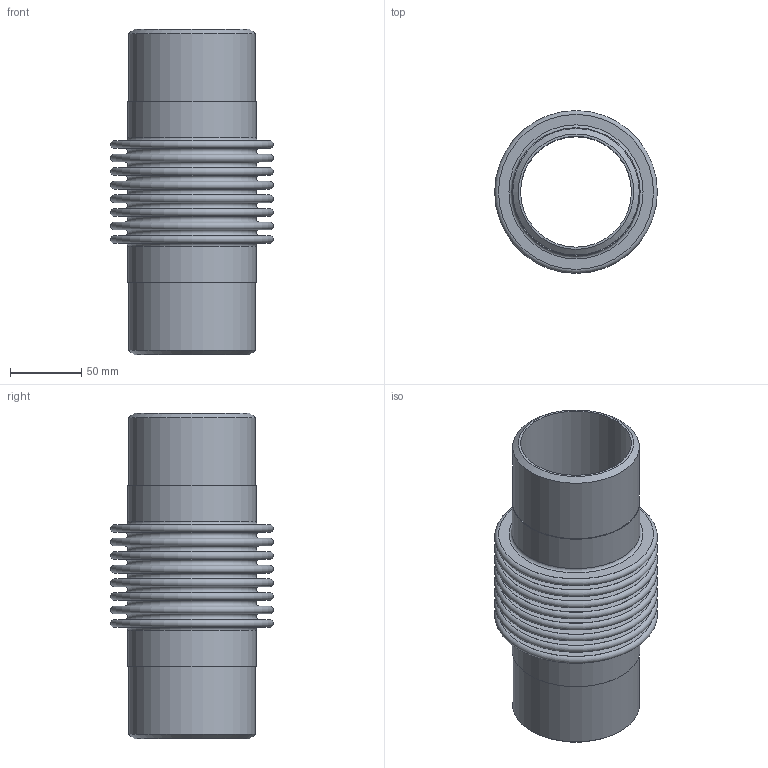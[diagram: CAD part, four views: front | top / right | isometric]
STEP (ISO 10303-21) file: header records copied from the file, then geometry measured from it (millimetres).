
FILE_DESCRIPTION(/* description */ (''),/* implementation_level */ '2;1');
FILE_NAME(/* name */ 'PIPE- 3 - 85 PSIG.stp',/* time_stamp */ '2026-07-23T09:24:45-05:00',/* author */ ('jorgef'),/* organization */ (''),/* preprocessor_version */ 'ST-DEVELOPER v20.1',/* originating_system */ 'Autodesk Inventor 2026',/* authorisation */ '');
FILE_SCHEMA (('AUTOMOTIVE_DESIGN { 1 0 10303 214 3 1 1 }'));
Length unit declared in the file: inch
Products named in the file (1): PIPE- 3 - 85 PSIG ASSEMBLY PART
Bounding box: 114.3 x 114.3 x 228.6 mm (x, y, z)
Volume: 270757.1 mm3; surface area: 236289.4 mm2
Topology: 1 solids, 1 shells, 80 faces, 126 edges, 84 vertices
Faces by surface type: plane 38, torus 34, cylinder 6, cone 2
Full cylindrical faces by diameter (mm): 77.927 x2, 88.9 x2, 90.119 x2
Entity records: 2035 total; most frequent: DIRECTION 406, CARTESIAN_POINT 291, ORIENTED_EDGE 252, AXIS2_PLACEMENT_3D 199, EDGE_CURVE 126, EDGE_LOOP 118, CIRCLE 118, VERTEX_POINT 84
